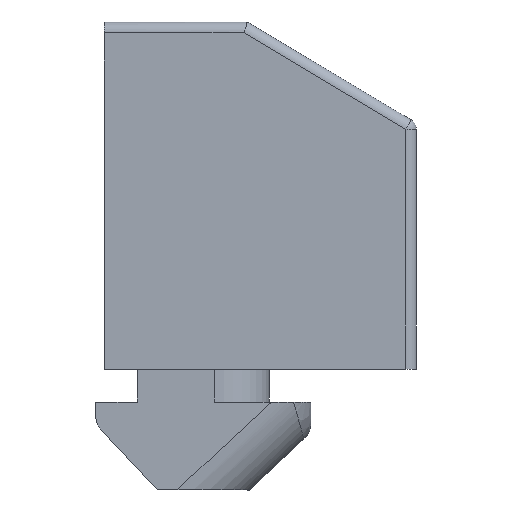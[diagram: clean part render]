
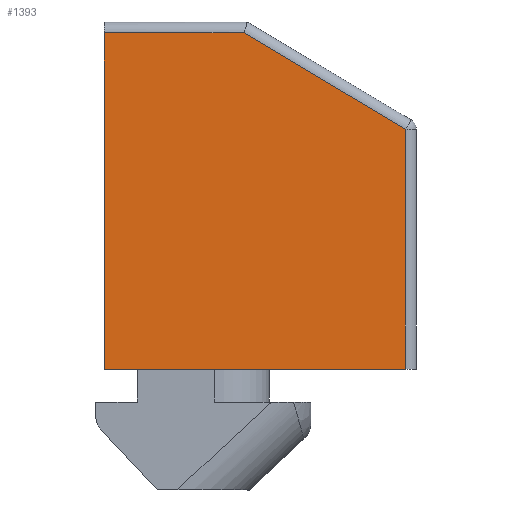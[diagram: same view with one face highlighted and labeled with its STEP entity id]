
A CAD part, left-side view. The second image highlights one B-rep face of the part: STEP entity #1393.
In plain terms, the highlighted planar face has unit normal (-1, 0, 0).
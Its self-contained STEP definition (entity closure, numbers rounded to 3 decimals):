
#64=PLANE('',#1506);
#118=LINE('',#2036,#254);
#119=LINE('',#2038,#255);
#120=LINE('',#2040,#256);
#121=LINE('',#2041,#257);
#122=LINE('',#2042,#258);
#254=VECTOR('',#1663,1000.);
#255=VECTOR('',#1664,1000.);
#256=VECTOR('',#1665,1000.);
#257=VECTOR('',#1666,1000.);
#258=VECTOR('',#1667,1000.);
#413=FACE_OUTER_BOUND('',#491,.T.);
#491=EDGE_LOOP('',(#994,#995,#996,#997,#998));
#613=VERTEX_POINT('',#1982);
#633=VERTEX_POINT('',#2034);
#634=VERTEX_POINT('',#2035);
#635=VERTEX_POINT('',#2037);
#636=VERTEX_POINT('',#2039);
#774=EDGE_CURVE('',#633,#634,#118,.T.);
#775=EDGE_CURVE('',#635,#633,#119,.T.);
#776=EDGE_CURVE('',#636,#635,#120,.T.);
#777=EDGE_CURVE('',#613,#636,#121,.T.);
#778=EDGE_CURVE('',#634,#613,#122,.T.);
#994=ORIENTED_EDGE('',*,*,#774,.F.);
#995=ORIENTED_EDGE('',*,*,#775,.F.);
#996=ORIENTED_EDGE('',*,*,#776,.F.);
#997=ORIENTED_EDGE('',*,*,#777,.F.);
#998=ORIENTED_EDGE('',*,*,#778,.F.);
#1393=ADVANCED_FACE('',(#413),#64,.F.);
#1506=AXIS2_PLACEMENT_3D('',#2033,#1661,#1662);
#1661=DIRECTION('center_axis',(1.,0.,0.));
#1662=DIRECTION('ref_axis',(0.,0.,1.));
#1663=DIRECTION('',(0.,-1.,0.));
#1664=DIRECTION('',(0.,0.,1.));
#1665=DIRECTION('',(0.,1.,0.));
#1666=DIRECTION('',(0.,0.,-1.));
#1667=DIRECTION('',(0.,-0.858,-0.513));
#1982=CARTESIAN_POINT('',(-8.85,-7.1,16.416));
#2033=CARTESIAN_POINT('Origin',(-8.85,6.6,5.5));
#2034=CARTESIAN_POINT('',(-8.85,6.6,20.8));
#2035=CARTESIAN_POINT('',(-8.85,0.238,20.8));
#2036=CARTESIAN_POINT('',(-8.85,6.6,20.8));
#2037=CARTESIAN_POINT('',(-8.85,6.6,5.5));
#2038=CARTESIAN_POINT('',(-8.85,6.6,5.5));
#2039=CARTESIAN_POINT('',(-8.85,-7.1,5.5));
#2040=CARTESIAN_POINT('',(-8.85,6.6,5.5));
#2041=CARTESIAN_POINT('',(-8.85,-7.1,5.5));
#2042=CARTESIAN_POINT('',(-8.85,0.238,20.8));
